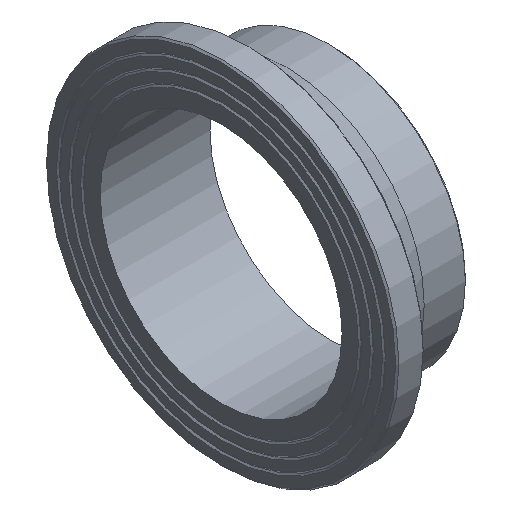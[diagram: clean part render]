
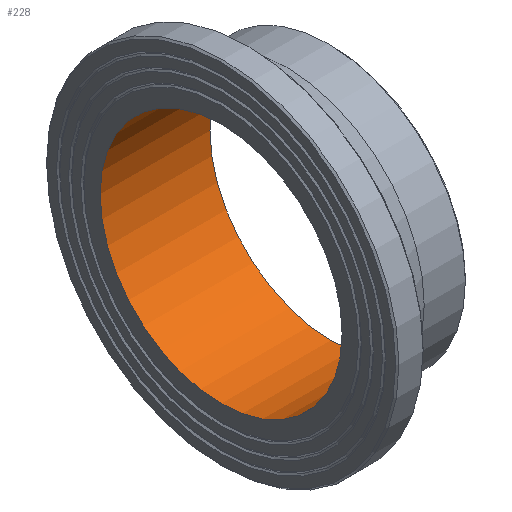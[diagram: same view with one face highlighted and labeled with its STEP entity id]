
A CAD part, isometric view. The second image highlights one B-rep face of the part: STEP entity #228.
In plain terms, the highlighted cylindrical face has radius 110.2 mm (diameter 220.4 mm), a full revolution.
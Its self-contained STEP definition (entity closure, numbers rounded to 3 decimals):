
#33=CYLINDRICAL_SURFACE('',#274,110.2);
#50=ORIENTED_EDGE('',*,*,#79,.F.);
#51=ORIENTED_EDGE('',*,*,#76,.T.);
#76=EDGE_CURVE('',#96,#96,#116,.T.);
#79=EDGE_CURVE('',#99,#99,#119,.T.);
#96=VERTEX_POINT('',#383);
#99=VERTEX_POINT('',#390);
#116=CIRCLE('',#257,110.2);
#119=CIRCLE('',#261,110.2);
#150=EDGE_LOOP('',(#50));
#151=EDGE_LOOP('',(#51));
#190=FACE_BOUND('',#150,.T.);
#191=FACE_BOUND('',#151,.T.);
#228=ADVANCED_FACE('',(#190,#191),#33,.F.);
#257=AXIS2_PLACEMENT_3D('',#382,#303,#304);
#261=AXIS2_PLACEMENT_3D('',#389,#311,#312);
#274=AXIS2_PLACEMENT_3D('',#410,#337,#338);
#303=DIRECTION('',(-1.,0.,0.));
#304=DIRECTION('',(0.,0.,1.));
#311=DIRECTION('',(-1.,0.,0.));
#312=DIRECTION('',(0.,0.,1.));
#337=DIRECTION('',(-1.,0.,0.));
#338=DIRECTION('',(0.,0.,1.));
#382=CARTESIAN_POINT('',(0.,0.,0.));
#383=CARTESIAN_POINT('',(0.,0.,110.2));
#389=CARTESIAN_POINT('',(100.,0.,0.));
#390=CARTESIAN_POINT('',(100.,0.,110.2));
#410=CARTESIAN_POINT('',(60.,0.,0.));
